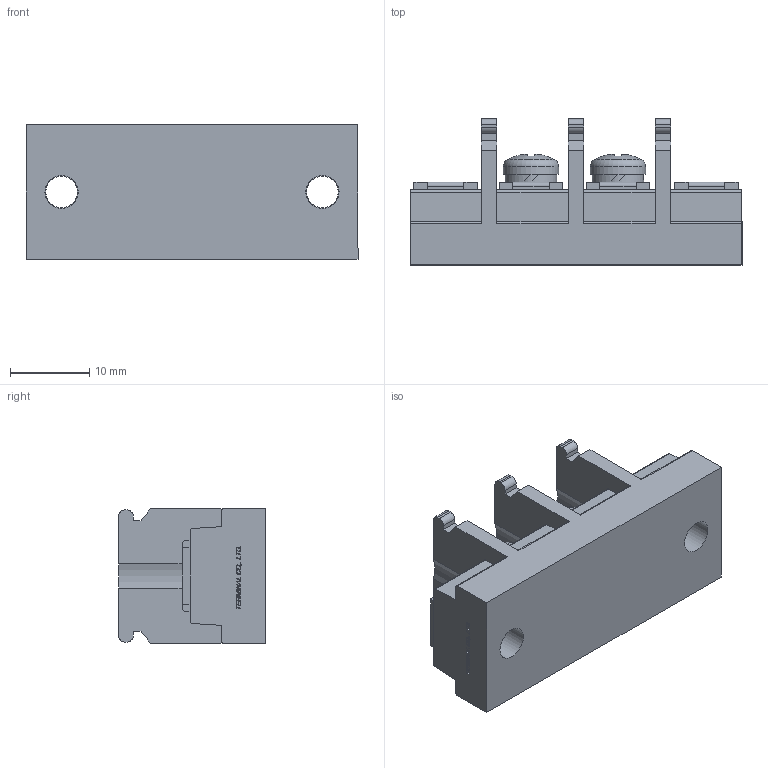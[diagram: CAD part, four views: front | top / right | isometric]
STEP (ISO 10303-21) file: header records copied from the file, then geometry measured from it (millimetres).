
FILE_DESCRIPTION(/* description */ ('Alibre Inc.'),/* implementation_level */ '2;1');
FILE_NAME(/* name */ 'export0',/* time_stamp */ '2015-10-19T19:19:53+09:00',/* author */ (''),/* organization */ (''),/* preprocessor_version */ 'ST-DEVELOPER v14',/* originating_system */ 'Alibre',/* authorisation */ '');
FILE_SCHEMA (('CONFIG_CONTROL_DESIGN'));
Length unit declared in the file: centimetre
Products named in the file (1): ID_1
Bounding box: 42 x 18.5 x 17 mm (x, y, z)
Volume: 7120.3 mm3; surface area: 4207.5 mm2
Topology: 1 solids, 1 shells, 584 faces, 1598 edges, 1064 vertices
Faces by surface type: plane 414, bspline 104, cylinder 52, cone 8, torus 4, sphere 2
Full cylindrical faces by diameter (mm): 4 x4, 4.2 x2, 6.5 x2, 7 x2
Entity records: 17983 total; most frequent: CARTESIAN_POINT 4204, ORIENTED_EDGE 3156, DIRECTION 2049, EDGE_CURVE 1578, VECTOR 1187, LINE 1187, VERTEX_POINT 1056, EDGE_LOOP 652
